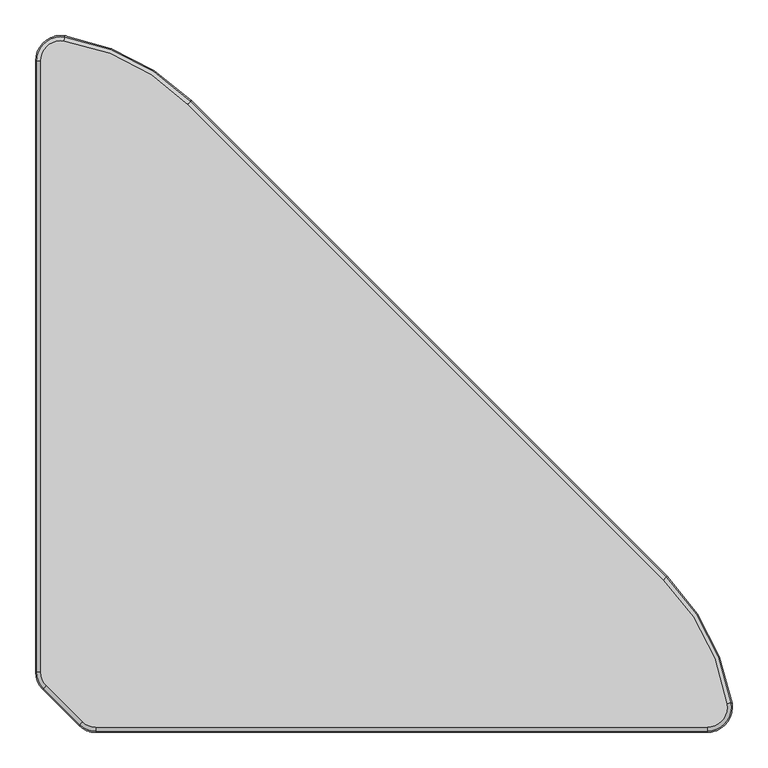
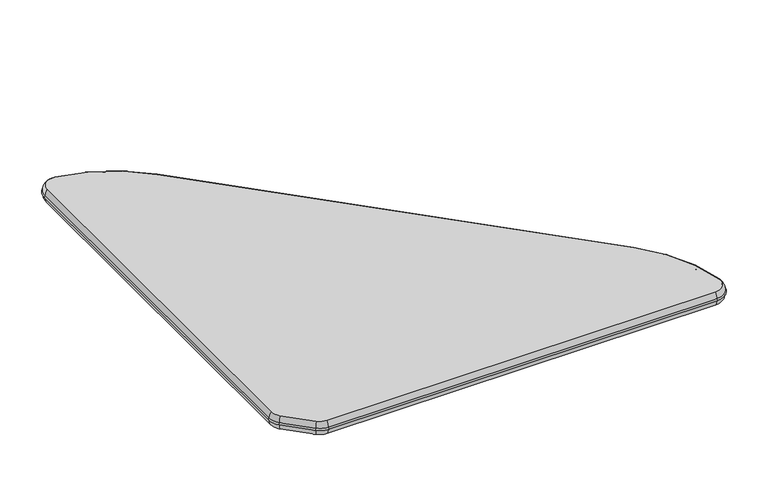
"""IFC4 building model written with IfcOpenShell, lengths in millimetres: furniture geometry, Furniture_Wilkhahn_mAx_466-10 : mAx_466-10_900L x 900W x 730H-Bullnose."""

from ifc_helpers import new_model, si_unit, point, frame, frame_2d, origin, place, context, project, spatial, polyline, circle_curve, ellipse_curve, trimmed, segment, composite_curve, outline, extrude, source, transform, mapped, element, save
from ifc_brep_helpers import plane_surface, cylinder_surface, revolved_surface, extruded_surface, advanced_brep


def furniture_74cbf775(model_context):
    return source(origin(), model_context, "Body", "SolidModel", [
        extrude(outline(composite_curve([segment(polyline([(-1335.7655271, 694.4444598), (-1320.7655271, 694.4444598), (-1320.7655271, 693.6411472)]), True, "CONTINUOUS"), segment(trimmed(circle_curve(frame_2d((-1313.2655271, 693.6411472)), 7.5), [point((-1320.7655271, 693.6411472))], [point((-1313.2655271, 686.1411472))], True, "CARTESIAN"), True, "CONTINUOUS"), segment(polyline([(-1313.2655271, 686.1411472), (-1303.5506481, 686.1411472)]), True, "CONTINUOUS"), segment(trimmed(circle_curve(frame_2d((-1303.5506481, 686.6411472)), 0.5), [point((-1303.5506481, 686.1411472))], [point((-1303.0506481, 686.6411472))], True, "CARTESIAN"), True, "CONTINUOUS"), segment(polyline([(-1303.0506481, 686.6411472), (-1303.0506481, 693.2216542), (-1288.0506481, 693.2216542), (-1288.0506481, 686.6411472)]), True, "CONTINUOUS"), segment(trimmed(circle_curve(frame_2d((-1303.5506481, 686.6411472)), 15.5), [point((-1288.0506481, 686.6411472))], [point((-1303.5506481, 671.1411472))], False, "CARTESIAN"), True, "CONTINUOUS"), segment(polyline([(-1303.5506481, 671.1411472), (-1313.2655271, 671.1411472)]), True, "CONTINUOUS"), segment(trimmed(circle_curve(frame_2d((-1313.2655271, 693.6411472)), 22.5), [point((-1313.2655271, 671.1411472))], [point((-1335.7655271, 693.6411472))], False, "CARTESIAN"), True, "CONTINUOUS"), segment(polyline([(-1335.7655271, 693.6411472), (-1335.7655271, 694.4444598)]), True, "CONTINUOUS")], self_intersect=False)), frame((0.5339247, 0.0, 0.0), z_axis=(1.0, 0.0, 0.0), x_axis=(0.0, 1.0, 0.0)), (0.0, 0.0, 1.0), 13.865484),
        extrude(outline(composite_curve([segment(trimmed(circle_curve(frame_2d((38.0596613, -1275.7655271)), 9.0), [point((38.0596613, -1266.7655271))], [point((47.0596613, -1275.7655271))], False, "CARTESIAN"), True, "CONTINUOUS"), segment(polyline([(47.0596613, -1275.7655271), (47.0596613, -1380.7655271)]), True, "CONTINUOUS"), segment(trimmed(circle_curve(frame_2d((38.0596613, -1380.7655271)), 9.0), [point((47.0596613, -1380.7655271))], [point((38.0596613, -1389.7655271))], False, "CARTESIAN"), True, "CONTINUOUS"), segment(polyline([(38.0596613, -1389.7655271), (-23.126328, -1389.7655271)]), True, "CONTINUOUS"), segment(trimmed(circle_curve(frame_2d((-23.126328, -1380.7655271)), 9.0), [point((-23.126328, -1389.7655271))], [point((-32.126328, -1380.7655271))], False, "CARTESIAN"), True, "CONTINUOUS"), segment(polyline([(-32.126328, -1380.7655271), (-32.126328, -1275.7655271)]), True, "CONTINUOUS"), segment(trimmed(circle_curve(frame_2d((-23.126328, -1275.7655271)), 9.0), [point((-32.126328, -1275.7655271))], [point((-23.126328, -1266.7655271))], False, "CARTESIAN"), True, "CONTINUOUS"), segment(polyline([(-23.126328, -1266.7655271), (38.0596613, -1266.7655271)]), True, "CONTINUOUS")], self_intersect=False)), frame((0.0, 0.0, 695.0), z_axis=(0.0, 0.0, 1.0), x_axis=(1.0, 0.0, 0.0)), (0.0, 0.0, 1.0), 5.0),
        extrude(outline(composite_curve([segment(polyline([(-1320.7655271, 694.4444598), (-1320.7655271, 693.6411472)]), True, "CONTINUOUS"), segment(trimmed(circle_curve(frame_2d((-1313.2655271, 693.6411472)), 7.5), [point((-1320.7655271, 693.6411472))], [point((-1313.2655271, 686.1411472))], True, "CARTESIAN"), True, "CONTINUOUS"), segment(polyline([(-1313.2655271, 686.1411472), (-1303.5506481, 686.1411472)]), True, "CONTINUOUS"), segment(trimmed(circle_curve(frame_2d((-1303.5506481, 686.6411472)), 0.5), [point((-1303.5506481, 686.1411472))], [point((-1303.0506481, 686.6411472))], True, "CARTESIAN"), True, "CONTINUOUS"), segment(polyline([(-1303.0506481, 686.6411472), (-1303.0506481, 693.2216542), (-1288.0506481, 693.2216542), (-1288.0506481, 686.6411472)]), True, "CONTINUOUS"), segment(trimmed(circle_curve(frame_2d((-1303.5506481, 686.6411472)), 15.5), [point((-1288.0506481, 686.6411472))], [point((-1303.5506481, 671.1411472))], False, "CARTESIAN"), True, "CONTINUOUS"), segment(polyline([(-1303.5506481, 671.1411472), (-1313.2655271, 671.1411472)]), True, "CONTINUOUS"), segment(trimmed(circle_curve(frame_2d((-1313.2655271, 693.6411472)), 22.5), [point((-1313.2655271, 671.1411472))], [point((-1335.7655271, 693.6411472))], False, "CARTESIAN"), True, "CONTINUOUS"), segment(polyline([(-1335.7655271, 693.6411472), (-1335.7655271, 694.4444598), (-1320.7655271, 694.4444598)]), True, "CONTINUOUS")], self_intersect=False)), frame((316.8005913, 0.0, 0.0), z_axis=(1.0, 0.0, 0.0), x_axis=(0.0, 1.0, 0.0)), (0.0, 0.0, 1.0), 13.865484),
        extrude(outline(composite_curve([segment(polyline([(293.1403387, -1266.7655271), (354.326328, -1266.7655271)]), True, "CONTINUOUS"), segment(trimmed(circle_curve(frame_2d((354.326328, -1275.7655271)), 9.0), [point((354.326328, -1266.7655271))], [point((363.326328, -1275.7655271))], False, "CARTESIAN"), True, "CONTINUOUS"), segment(polyline([(363.326328, -1275.7655271), (363.326328, -1380.7655271)]), True, "CONTINUOUS"), segment(trimmed(circle_curve(frame_2d((354.326328, -1380.7655271)), 9.0), [point((363.326328, -1380.7655271))], [point((354.326328, -1389.7655271))], False, "CARTESIAN"), True, "CONTINUOUS"), segment(polyline([(354.326328, -1389.7655271), (293.1403387, -1389.7655271)]), True, "CONTINUOUS"), segment(trimmed(circle_curve(frame_2d((293.1403387, -1380.7655271)), 9.0), [point((293.1403387, -1389.7655271))], [point((284.1403387, -1380.7655271))], False, "CARTESIAN"), True, "CONTINUOUS"), segment(polyline([(284.1403387, -1380.7655271), (284.1403387, -1275.7655271)]), True, "CONTINUOUS"), segment(trimmed(circle_curve(frame_2d((293.1403387, -1275.7655271)), 9.0), [point((284.1403387, -1275.7655271))], [point((293.1403387, -1266.7655271))], False, "CARTESIAN"), True, "CONTINUOUS")], self_intersect=False)), frame((0.0, 0.0, 695.0), z_axis=(0.0, 0.0, 1.0), x_axis=(1.0, 0.0, 0.0)), (0.0, 0.0, 1.0), 5.0),
        extrude(outline(composite_curve([segment(polyline([(694.4444598, -254.8), (693.6411472, -254.8)]), True, "CONTINUOUS"), segment(trimmed(circle_curve(frame_2d((693.6411472, -232.3)), 22.5), [point((693.6411472, -254.8))], [point((671.1411472, -232.3))], False, "CARTESIAN"), True, "CONTINUOUS"), segment(polyline([(671.1411472, -232.3), (671.1411472, -222.5851209)]), True, "CONTINUOUS"), segment(trimmed(circle_curve(frame_2d((686.6411472, -222.5851209)), 15.5), [point((671.1411472, -222.5851209))], [point((686.6411472, -207.0851209))], False, "CARTESIAN"), True, "CONTINUOUS"), segment(polyline([(686.6411472, -207.0851209), (693.2216542, -207.0851209), (693.2216542, -222.0851209), (686.6411472, -222.0851209)]), True, "CONTINUOUS"), segment(trimmed(circle_curve(frame_2d((686.6411472, -222.5851209)), 0.5), [point((686.6411472, -222.0851209))], [point((686.1411472, -222.5851209))], True, "CARTESIAN"), True, "CONTINUOUS"), segment(polyline([(686.1411472, -222.5851209), (686.1411472, -232.3)]), True, "CONTINUOUS"), segment(trimmed(circle_curve(frame_2d((693.6411472, -232.3)), 7.5), [point((686.1411472, -232.3))], [point((693.6411472, -239.8))], True, "CARTESIAN"), True, "CONTINUOUS"), segment(polyline([(693.6411472, -239.8), (694.4444598, -239.8), (694.4444598, -254.8)]), True, "CONTINUOUS")], self_intersect=False)), frame((0.0, -1101.2316025, 0.0), z_axis=(0.0, 1.0, 0.0), x_axis=(0.0, 0.0, 1.0)), (0.0, 0.0, 1.0), 13.865484),
        extrude(outline(composite_curve([segment(polyline([(-185.8, -1063.7058658), (-185.8, -1124.8918551)]), True, "CONTINUOUS"), segment(trimmed(circle_curve(frame_2d((-194.8, -1124.8918551)), 9.0), [point((-185.8, -1124.8918551))], [point((-194.8, -1133.8918551))], False, "CARTESIAN"), True, "CONTINUOUS"), segment(polyline([(-194.8, -1133.8918551), (-299.8, -1133.8918551)]), True, "CONTINUOUS"), segment(trimmed(circle_curve(frame_2d((-299.8, -1124.8918551)), 9.0), [point((-299.8, -1133.8918551))], [point((-308.8, -1124.8918551))], False, "CARTESIAN"), True, "CONTINUOUS"), segment(polyline([(-308.8, -1124.8918551), (-308.8, -1063.7058658)]), True, "CONTINUOUS"), segment(trimmed(circle_curve(frame_2d((-299.8, -1063.7058658)), 9.0), [point((-308.8, -1063.7058658))], [point((-299.8, -1054.7058658))], False, "CARTESIAN"), True, "CONTINUOUS"), segment(polyline([(-299.8, -1054.7058658), (-194.8, -1054.7058658)]), True, "CONTINUOUS"), segment(trimmed(circle_curve(frame_2d((-194.8, -1063.7058658)), 9.0), [point((-194.8, -1054.7058658))], [point((-185.8, -1063.7058658))], False, "CARTESIAN"), True, "CONTINUOUS")], self_intersect=False)), frame((0.0, 0.0, 695.0), z_axis=(0.0, 0.0, 1.0), x_axis=(1.0, 0.0, 0.0)), (0.0, 0.0, 1.0), 5.0),
        extrude(outline(composite_curve([segment(polyline([(694.4444598, -239.8), (694.4444598, -254.8), (693.6411472, -254.8)]), True, "CONTINUOUS"), segment(trimmed(circle_curve(frame_2d((693.6411472, -232.3)), 22.5), [point((693.6411472, -254.8))], [point((671.1411472, -232.3))], False, "CARTESIAN"), True, "CONTINUOUS"), segment(polyline([(671.1411472, -232.3), (671.1411472, -222.5851209)]), True, "CONTINUOUS"), segment(trimmed(circle_curve(frame_2d((686.6411472, -222.5851209)), 15.5), [point((671.1411472, -222.5851209))], [point((686.6411472, -207.0851209))], False, "CARTESIAN"), True, "CONTINUOUS"), segment(polyline([(686.6411472, -207.0851209), (693.2216542, -207.0851209), (693.2216542, -222.0851209), (686.6411472, -222.0851209)]), True, "CONTINUOUS"), segment(trimmed(circle_curve(frame_2d((686.6411472, -222.5851209)), 0.5), [point((686.6411472, -222.0851209))], [point((686.1411472, -222.5851209))], True, "CARTESIAN"), True, "CONTINUOUS"), segment(polyline([(686.1411472, -222.5851209), (686.1411472, -232.3)]), True, "CONTINUOUS"), segment(trimmed(circle_curve(frame_2d((693.6411472, -232.3)), 7.5), [point((686.1411472, -232.3))], [point((693.6411472, -239.8))], True, "CARTESIAN"), True, "CONTINUOUS"), segment(polyline([(693.6411472, -239.8), (694.4444598, -239.8)]), True, "CONTINUOUS")], self_intersect=False)), frame((0.0, -774.5649358, 0.0), z_axis=(0.0, 1.0, 0.0), x_axis=(0.0, 0.0, 1.0)), (0.0, 0.0, 1.0), 13.865484),
        extrude(outline(composite_curve([segment(trimmed(circle_curve(frame_2d((-194.8, -798.2251885)), 9.0), [point((-185.8, -798.2251885))], [point((-194.8, -807.2251885))], False, "CARTESIAN"), True, "CONTINUOUS"), segment(polyline([(-194.8, -807.2251885), (-299.8, -807.2251885)]), True, "CONTINUOUS"), segment(trimmed(circle_curve(frame_2d((-299.8, -798.2251885)), 9.0), [point((-299.8, -807.2251885))], [point((-308.8, -798.2251885))], False, "CARTESIAN"), True, "CONTINUOUS"), segment(polyline([(-308.8, -798.2251885), (-308.8, -737.0391992)]), True, "CONTINUOUS"), segment(trimmed(circle_curve(frame_2d((-299.8, -737.0391992)), 9.0), [point((-308.8, -737.0391992))], [point((-299.8, -728.0391992))], False, "CARTESIAN"), True, "CONTINUOUS"), segment(polyline([(-299.8, -728.0391992), (-194.8, -728.0391992)]), True, "CONTINUOUS"), segment(trimmed(circle_curve(frame_2d((-194.8, -737.0391992)), 9.0), [point((-194.8, -728.0391992))], [point((-185.8, -737.0391992))], False, "CARTESIAN"), True, "CONTINUOUS"), segment(polyline([(-185.8, -737.0391992), (-185.8, -798.2251885)]), True, "CONTINUOUS")], self_intersect=False)), frame((0.0, 0.0, 695.0), z_axis=(0.0, 0.0, 1.0), x_axis=(1.0, 0.0, 0.0)), (0.0, 0.0, 1.0), 5.0),
        advanced_brep(
        [(602.5178895, -1395.4655271, 700.0), (-255.8933983, -1395.4655271, 700.0), (-255.8933983, -1395.4655271, 705.0), (602.5178895, -1395.4655271, 705.0), (-314.5, -1336.8589254, 700.0), (-314.5, -478.4476376, 700.0), (-314.5, -478.4476376, 705.0), (-314.5, -1336.8589254, 705.0), (-312.3033009, -1342.1622263, 700.0), (-312.3033009, -1342.1622263, 705.0), (-261.1966991, -1393.268828, 700.0), (-261.1966991, -1393.268828, 705.0), (527.4390577, -1219.0718527, 700.0), (528.4414259, -1220.0742209, 700.0), (528.4414259, -1220.0742209, 705.0), (527.4390577, -1219.0718527, 705.0), (-138.1063255, -553.5264695, 705.0), (-139.1086938, -552.5241013, 705.0), (-139.1086938, -552.5241013, 700.0), (-138.1063255, -553.5264695, 700.0), (612.3871481, -1383.8537779, 700.0), (612.3871481, -1383.8537779, 705.0), (-302.8882508, -468.5783791, 700.0), (-302.8882508, -468.5783791, 705.0), (541.2526335, -1207.2630133, 730.0), (-126.2974862, -539.7128937, 730.0), (-299.9681184, -450.6974701, 730.0), (-332.6177835, -478.4476376, 730.0), (-332.6177835, -1336.8589254, 730.0), (-325.1145084, -1354.9734339, 730.0), (-274.0079067, -1406.0800356, 730.0), (-255.8933983, -1413.5833107, 730.0), (602.5178895, -1413.5833107, 730.0), (630.2680571, -1380.9336455, 730.0), (-332.6177835, -478.4476376, 700.0), (-299.9681184, -450.6974701, 700.0), (-126.2974862, -539.7128937, 700.0), (541.2526335, -1207.2630133, 700.0), (630.2680571, -1380.9336455, 700.0), (602.5178895, -1413.5833107, 700.0), (-255.8933983, -1413.5833107, 700.0), (-274.0079067, -1406.0800356, 700.0), (-325.1145084, -1354.9734339, 700.0), (-332.6177835, -1336.8589254, 700.0), (-329.223773, -1359.0826985, 712.6790822), (-338.4291612, -1336.8589254, 712.6790822), (-329.223773, -1359.0826985, 717.3209178), (-338.4291612, -1336.8589254, 717.3209178), (-278.1171713, -1410.1893002, 712.6790822), (-278.1171713, -1410.1893002, 717.3209178), (-255.8933983, -1419.3946884, 712.6790822), (-255.8933983, -1419.3946884, 717.3209178), (602.5178895, -1419.3946884, 712.6790822), (602.5178895, -1419.3946884, 717.3209178), (636.003456, -1379.9969971, 712.6790822), (636.003456, -1379.9969971, 717.3209178), (545.3618981, -1203.1537487, 712.6790822), (545.3618981, -1203.1537487, 717.3209178), (-122.1882216, -535.6036291, 712.6790822), (-122.1882216, -535.6036291, 717.3209178), (-299.03147, -444.9620711, 712.6790822), (-299.03147, -444.9620711, 717.3209178), (-338.4291612, -478.4476376, 712.6790822), (-338.4291612, -478.4476376, 717.3209178)],
        [
            (0, 1),
            (1, 2),
            (2, 3),
            (3, 0),
            (4, 5),
            (5, 6),
            (6, 7),
            (7, 4),
            (8, 4, circle_curve(frame((-307.0, -1336.8589254, 700.0), z_axis=(0.0, 0.0, -1.0), x_axis=(-1.0, 0.0, 0.0)), 7.5)),
            (7, 9, circle_curve(frame((-307.0, -1336.8589254, 705.0), z_axis=(0.0, 0.0, 1.0), x_axis=(-1.0, 0.0, 0.0)), 7.5)),
            (9, 8),
            (10, 8),
            (9, 11),
            (11, 10),
            (1, 10, circle_curve(frame((-255.8933983, -1387.9655271, 700.0), z_axis=(0.0, 0.0, -1.0), x_axis=(-0.7071067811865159, -0.7071067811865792, 0.0)), 7.5)),
            (11, 2, circle_curve(frame((-255.8933983, -1387.9655271, 705.0), z_axis=(0.0, 0.0, 1.0), x_axis=(-0.7071067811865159, -0.7071067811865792, 0.0)), 7.5)),
            (12, 13),
            (13, 14),
            (14, 15),
            (15, 16),
            (16, 17),
            (17, 18),
            (18, 19),
            (19, 12),
            (20, 0, circle_curve(frame((602.5178895, -1385.4655271, 700.0), z_axis=(0.0, 0.0, -1.0), x_axis=(0.0, -1.0, 0.0)), 10.0)),
            (3, 21, circle_curve(frame((602.5178895, -1385.4655271, 705.0), z_axis=(0.0, 0.0, 1.0), x_axis=(0.0, -1.0, 0.0)), 10.0)),
            (21, 20),
            (13, 20, circle_curve(frame((316.3093915, -1432.2062553, 700.0), z_axis=(0.0, 0.0, -1.0), x_axis=(0.9869258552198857, 0.1611749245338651, 0.0)), 300.0)),
            (21, 14, circle_curve(frame((316.3093915, -1432.2062553, 705.0), z_axis=(0.0, 0.0, 1.0), x_axis=(0.9869258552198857, 0.1611749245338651, 0.0)), 300.0)),
            (22, 18, circle_curve(frame((-351.2407281, -764.6561356, 700.0), z_axis=(0.0, 0.0, -1.0), x_axis=(0.7071067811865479, 0.7071067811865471, 0.0)), 300.0)),
            (17, 23, circle_curve(frame((-351.2407281, -764.6561356, 705.0), z_axis=(0.0, 0.0, 1.0), x_axis=(0.7071067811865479, 0.7071067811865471, 0.0)), 300.0)),
            (23, 22),
            (24, 25),
            (25, 26, circle_curve(frame((-351.2407281, -764.6561356, 730.0), z_axis=(0.0, 0.0, 1.0), x_axis=(0.7071067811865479, 0.7071067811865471, 0.0)), 318.1177835)),
            (26, 27, circle_curve(frame((-304.5, -478.4476376, 730.0), z_axis=(0.0, 0.0, 1.0), x_axis=(0.16117492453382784, 0.9869258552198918, 0.0)), 28.1177835)),
            (27, 28),
            (28, 29, circle_curve(frame((-307.0, -1336.8589254, 730.0), z_axis=(0.0, 0.0, 1.0), x_axis=(-1.0, 0.0, 0.0)), 25.6177835)),
            (29, 30),
            (30, 31, circle_curve(frame((-255.8933983, -1387.9655271, 730.0), z_axis=(0.0, 0.0, 1.0), x_axis=(-0.7071067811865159, -0.7071067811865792, 0.0)), 25.6177835)),
            (31, 32),
            (32, 33, circle_curve(frame((602.5178895, -1385.4655271, 730.0), z_axis=(0.0, 0.0, 1.0), x_axis=(0.0, -1.0, 0.0)), 28.1177835)),
            (33, 24, circle_curve(frame((316.3093915, -1432.2062553, 730.0), z_axis=(0.0, 0.0, 1.0), x_axis=(0.9869258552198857, 0.1611749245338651, 0.0)), 318.1177835)),
            (5, 22, circle_curve(frame((-304.5, -478.4476376, 700.0), z_axis=(0.0, 0.0, -1.0), x_axis=(0.16117492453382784, 0.9869258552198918, 0.0)), 10.0)),
            (23, 6, circle_curve(frame((-304.5, -478.4476376, 705.0), z_axis=(0.0, 0.0, 1.0), x_axis=(0.16117492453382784, 0.9869258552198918, 0.0)), 10.0)),
            (34, 35, circle_curve(frame((-304.5, -478.4476376, 700.0), z_axis=(0.0, 0.0, -1.0), x_axis=(0.16117492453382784, 0.9869258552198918, 0.0)), 28.1177835)),
            (35, 36, circle_curve(frame((-351.2407281, -764.6561356, 700.0), z_axis=(0.0, 0.0, -1.0), x_axis=(0.7071067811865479, 0.7071067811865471, 0.0)), 318.1177835)),
            (36, 37),
            (37, 38, circle_curve(frame((316.3093915, -1432.2062553, 700.0), z_axis=(0.0, 0.0, -1.0), x_axis=(0.9869258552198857, 0.1611749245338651, 0.0)), 318.1177835)),
            (38, 39, circle_curve(frame((602.5178895, -1385.4655271, 700.0), z_axis=(0.0, 0.0, -1.0), x_axis=(0.0, -1.0, 0.0)), 28.1177835)),
            (39, 40),
            (40, 41, circle_curve(frame((-255.8933983, -1387.9655271, 700.0), z_axis=(0.0, 0.0, -1.0), x_axis=(-0.7071067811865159, -0.7071067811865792, 0.0)), 25.6177835)),
            (41, 42),
            (42, 43, circle_curve(frame((-307.0, -1336.8589254, 700.0), z_axis=(0.0, 0.0, -1.0), x_axis=(-1.0, 0.0, 0.0)), 25.6177835)),
            (43, 34),
            (42, 44, ellipse_curve(frame((-325.1145084, -1354.9734339, 715.0), z_axis=(-0.7071067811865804, 0.7071067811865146, 0.0), x_axis=(0.0, 0.0, -1.0)), 15.0, 5.8822165)),
            (44, 45, circle_curve(frame((-307.0, -1336.8589254, 712.6790822), z_axis=(0.0, 0.0, -1.0), x_axis=(-1.0, 0.0, 0.0)), 31.4291612)),
            (45, 43, ellipse_curve(frame((-332.6177835, -1336.8589254, 715.0), z_axis=(0.0, -1.0, 0.0), x_axis=(0.0, 0.0, -1.0)), 15.0, 5.8822165)),
            (44, 46, circle_curve(frame((-328.5667568, -1358.4256823, 715.0), z_axis=(-0.7071067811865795, 0.7071067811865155, 0.0), x_axis=(0.7071067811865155, 0.7071067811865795, 0.0)), 2.5)),
            (46, 47, circle_curve(frame((-307.0, -1336.8589254, 717.3209178), z_axis=(0.0, 0.0, -1.0), x_axis=(-1.0, 0.0, 0.0)), 31.4291612)),
            (47, 45, circle_curve(frame((-337.5, -1336.8589254, 715.0), z_axis=(0.0, -1.0, 0.0), x_axis=(1.0, 0.0, 0.0)), 2.5)),
            (28, 47, ellipse_curve(frame((-332.6177835, -1336.8589254, 715.0), z_axis=(0.0, -1.0, 0.0), x_axis=(0.0, 0.0, -1.0)), 15.0, 5.8822165)),
            (46, 29, ellipse_curve(frame((-325.1145084, -1354.9734339, 715.0), z_axis=(-0.7071067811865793, 0.7071067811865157, 0.0), x_axis=(0.0, 0.0, -1.0)), 15.0, 5.8822165)),
            (41, 48, ellipse_curve(frame((-274.0079067, -1406.0800356, 715.0), z_axis=(-0.7071067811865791, 0.707106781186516, 0.0), x_axis=(0.0, 0.0, -1.0)), 15.0, 5.8822165)),
            (48, 44),
            (48, 49, circle_curve(frame((-277.4601551, -1409.532284, 715.0), z_axis=(-0.7071067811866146, 0.7071067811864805, 0.0), x_axis=(0.7071067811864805, 0.7071067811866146, 0.0)), 2.5)),
            (49, 46),
            (49, 30, ellipse_curve(frame((-274.0079067, -1406.0800356, 715.0), z_axis=(-0.7071067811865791, 0.707106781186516, 0.0), x_axis=(0.0, 0.0, -1.0)), 15.0, 5.8822165)),
            (40, 50, ellipse_curve(frame((-255.8933983, -1413.5833107, 715.0), z_axis=(-1.0, 0.0, 0.0), x_axis=(0.0, 0.0, -1.0)), 15.0, 5.8822165)),
            (50, 48, circle_curve(frame((-255.8933983, -1387.9655271, 712.6790822), z_axis=(0.0, 0.0, -1.0), x_axis=(-0.7071067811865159, -0.7071067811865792, 0.0)), 31.4291612)),
            (50, 51, circle_curve(frame((-255.8933983, -1418.4655271, 715.0), z_axis=(-1.0, 0.0, 0.0), x_axis=(0.0, 1.0, 0.0)), 2.5)),
            (51, 49, circle_curve(frame((-255.8933983, -1387.9655271, 717.3209178), z_axis=(0.0, 0.0, -1.0), x_axis=(-0.7071067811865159, -0.7071067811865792, 0.0)), 31.4291612)),
            (51, 31, ellipse_curve(frame((-255.8933983, -1413.5833107, 715.0), z_axis=(-1.0, 0.0, 0.0), x_axis=(0.0, 0.0, -1.0)), 15.0, 5.8822165)),
            (39, 52, ellipse_curve(frame((602.5178895, -1413.5833107, 715.0), z_axis=(-1.0, 0.0, 0.0), x_axis=(0.0, 0.0, -1.0)), 15.0, 5.8822165)),
            (52, 50),
            (52, 53, circle_curve(frame((602.5178895, -1418.4655271, 715.0), z_axis=(-1.0, 0.0, 0.0), x_axis=(0.0, 1.0, 0.0)), 2.5)),
            (53, 51),
            (53, 32, ellipse_curve(frame((602.5178895, -1413.5833107, 715.0), z_axis=(-1.0, 0.0, 0.0), x_axis=(0.0, 0.0, -1.0)), 15.0, 5.8822165)),
            (38, 54, ellipse_curve(frame((630.2680571, -1380.9336455, 715.0), z_axis=(0.16117492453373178, -0.9869258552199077, 0.0), x_axis=(0.0, 0.0, -1.0)), 15.0, 5.8822165)),
            (54, 52, circle_curve(frame((602.5178895, -1385.4655271, 712.6790822), z_axis=(0.0, 0.0, -1.0), x_axis=(0.0, -1.0, 0.0)), 33.9291612)),
            (54, 55, circle_curve(frame((635.0864428, -1380.1467546, 715.0), z_axis=(0.16117492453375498, -0.9869258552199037, 0.0), x_axis=(-0.9869258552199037, -0.16117492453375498, 0.0)), 2.5)),
            (55, 53, circle_curve(frame((602.5178895, -1385.4655271, 717.3209178), z_axis=(0.0, 0.0, -1.0), x_axis=(0.0, -1.0, 0.0)), 33.9291612)),
            (55, 33, ellipse_curve(frame((630.2680571, -1380.9336455, 715.0), z_axis=(0.16117492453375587, -0.9869258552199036, 0.0), x_axis=(0.0, 0.0, -1.0)), 15.0, 5.8822165)),
            (37, 56, ellipse_curve(frame((541.2526335, -1207.2630133, 715.0), z_axis=(0.7071067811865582, -0.7071067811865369, 0.0), x_axis=(0.0, 0.0, -1.0)), 15.0, 5.8822165)),
            (56, 54, circle_curve(frame((316.3093915, -1432.2062553, 712.6790822), z_axis=(0.0, 0.0, -1.0), x_axis=(0.9869258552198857, 0.1611749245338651, 0.0)), 323.9291612)),
            (56, 57, circle_curve(frame((544.7048819, -1203.8107649, 715.0), z_axis=(0.7071067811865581, -0.707106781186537, 0.0), x_axis=(-0.707106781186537, -0.7071067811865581, 0.0)), 2.5)),
            (57, 55, circle_curve(frame((316.3093915, -1432.2062553, 717.3209178), z_axis=(0.0, 0.0, -1.0), x_axis=(0.9869258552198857, 0.1611749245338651, 0.0)), 323.9291612)),
            (57, 24, ellipse_curve(frame((541.2526335, -1207.2630133, 715.0), z_axis=(0.707106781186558, -0.707106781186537, 0.0), x_axis=(0.0, 0.0, -1.0)), 15.0, 5.8822165)),
            (36, 58, ellipse_curve(frame((-126.2974862, -539.7128937, 715.0), z_axis=(0.707106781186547, -0.707106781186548, 0.0), x_axis=(0.0, 0.0, -1.0)), 15.0, 5.8822165)),
            (58, 56),
            (58, 59, circle_curve(frame((-122.8452378, -536.2606453, 715.0), z_axis=(0.7071067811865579, -0.7071067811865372, 0.0), x_axis=(-0.7071067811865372, -0.7071067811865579, 0.0)), 2.5)),
            (59, 57),
            (59, 25, ellipse_curve(frame((-126.2974862, -539.7128937, 715.0), z_axis=(0.707106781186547, -0.707106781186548, 0.0), x_axis=(0.0, 0.0, -1.0)), 15.0, 5.8822165)),
            (35, 60, ellipse_curve(frame((-299.9681184, -450.6974701, 715.0), z_axis=(0.9869258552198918, -0.16117492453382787, 0.0), x_axis=(0.0, 0.0, -1.0)), 15.0, 5.8822165)),
            (60, 58, circle_curve(frame((-351.2407281, -764.6561356, 712.6790822), z_axis=(0.0, 0.0, -1.0), x_axis=(0.7071067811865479, 0.7071067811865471, 0.0)), 323.9291612)),
            (60, 61, circle_curve(frame((-299.1812275, -445.8790844, 715.0), z_axis=(0.9869258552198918, -0.16117492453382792, 0.0), x_axis=(-0.16117492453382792, -0.9869258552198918, 0.0)), 2.5)),
            (61, 59, circle_curve(frame((-351.2407281, -764.6561356, 717.3209178), z_axis=(0.0, 0.0, -1.0), x_axis=(0.7071067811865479, 0.7071067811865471, 0.0)), 323.9291612)),
            (61, 26, ellipse_curve(frame((-299.9681184, -450.6974701, 715.0), z_axis=(0.9869258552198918, -0.16117492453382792, 0.0), x_axis=(0.0, 0.0, -1.0)), 15.0, 5.8822165)),
            (34, 62, ellipse_curve(frame((-332.6177835, -478.4476376, 715.0), z_axis=(0.0, 1.0, 0.0), x_axis=(0.0, 0.0, -1.0)), 15.0, 5.8822165)),
            (62, 60, circle_curve(frame((-304.5, -478.4476376, 712.6790822), z_axis=(0.0, 0.0, -1.0), x_axis=(0.16117492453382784, 0.9869258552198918, 0.0)), 33.9291612)),
            (62, 63, circle_curve(frame((-337.5, -478.4476376, 715.0), z_axis=(0.0, 1.0, 0.0), x_axis=(1.0, 0.0, 0.0)), 2.5)),
            (63, 61, circle_curve(frame((-304.5, -478.4476376, 717.3209178), z_axis=(0.0, 0.0, -1.0), x_axis=(0.16117492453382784, 0.9869258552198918, 0.0)), 33.9291612)),
            (63, 27, ellipse_curve(frame((-332.6177835, -478.4476376, 715.0), z_axis=(0.0, 1.0, 0.0), x_axis=(0.0, 0.0, -1.0)), 15.0, 5.8822165)),
            (45, 62),
            (47, 63),
        ],
        [
            plane_surface(frame((-255.8933983, -1395.4655271, 730.0), z_axis=(0.0, 1.0, 0.0), x_axis=(1.0, 0.0, 0.0))),
            plane_surface(frame((-314.5, -478.4476376, 730.0), z_axis=(1.0, 0.0, 0.0), x_axis=(0.0, -1.0, 0.0))),
            revolved_surface(polyline([(-314.5, -1336.8589254, 705.0), (-314.5, -1336.8589254, 700.0)]), (-307.0, -1336.8589254, 730.0), (0.0, 0.0, 1.0)),
            plane_surface(frame((-312.3033009, -1342.1622263, 730.0), z_axis=(0.7071067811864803, 0.7071067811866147, 0.0), x_axis=(0.7071067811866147, -0.7071067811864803, 0.0))),
            revolved_surface(polyline([(-261.19669915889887, -1393.2688279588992, 705.0), (-261.19669915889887, -1393.2688279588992, 700.0)]), (-255.8933983, -1387.9655271, 730.0), (0.0, 0.0, 1.0)),
            plane_surface(frame((528.4414259, -1220.0742209, 730.0), z_axis=(-0.7071067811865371, -0.7071067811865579, 0.0), x_axis=(-0.7071067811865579, 0.7071067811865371, 0.0))),
            revolved_surface(polyline([(602.5178895, -1395.4655271, 705.0), (602.5178895, -1395.4655271, 700.0)]), (602.5178895, -1385.4655271, 730.0), (0.0, 0.0, 1.0)),
            revolved_surface(polyline([(612.3871480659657, -1383.8537779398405, 705.0), (612.3871480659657, -1383.8537779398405, 700.0)]), (316.3093915, -1432.2062553, 730.0), (0.0, 0.0, 1.0)),
            revolved_surface(polyline([(-139.10869374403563, -552.5241012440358, 705.0), (-139.10869374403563, -552.5241012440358, 700.0)]), (-351.2407281, -764.6561356, 730.0), (0.0, 0.0, 1.0)),
            plane_surface(frame((-304.5, -478.4476376, 730.0), z_axis=(0.0, 0.0, 1.0), x_axis=(0.16117492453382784, 0.9869258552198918, 0.0))),
            revolved_surface(polyline([(-302.8882507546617, -468.5783790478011, 705.0), (-302.8882507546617, -468.5783790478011, 700.0)]), (-304.5, -478.4476376, 730.0), (0.0, 0.0, 1.0)),
            plane_surface(frame((-304.5, -478.4476376, 700.0), z_axis=(0.0, 0.0, -1.0), x_axis=(0.16117492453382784, 0.9869258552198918, 0.0))),
            plane_surface(frame((-351.2407281, -464.6561356, 705.0), z_axis=(0.0, 0.0, -1.0), x_axis=(1.0, 0.0, 0.0))),
            revolved_surface(trimmed(ellipse_curve(frame((-332.6177835, -1336.8589254, 715.0), z_axis=(0.0, 1.0, 0.0), x_axis=(1.0, 0.0, 0.0)), 5.8822165, 15.0), [point((-332.6177835, -1336.8589254, 700.0))], [point((-338.4291612, -1336.8589254, 712.6790822))], True, "CARTESIAN"), (-307.0, -1336.8589254, 730.0), (0.0, 0.0, 1.0)),
            revolved_surface(trimmed(ellipse_curve(frame((-337.5, -1336.8589254, 715.0), z_axis=(0.0, 1.0, 0.0), x_axis=(1.0, 0.0, 0.0)), 2.5, 2.5), [point((-338.4291612, -1336.8589254, 712.6790822))], [point((-338.4291612, -1336.8589254, 717.3209178))], True, "CARTESIAN"), (-307.0, -1336.8589254, 730.0), (0.0, 0.0, 1.0)),
            revolved_surface(trimmed(ellipse_curve(frame((-332.6177835, -1336.8589254, 715.0), z_axis=(0.0, 1.0, 0.0), x_axis=(1.0, 0.0, 0.0)), 5.8822165, 15.0), [point((-338.4291612, -1336.8589254, 717.3209178))], [point((-332.6177835, -1336.8589254, 730.0))], True, "CARTESIAN"), (-307.0, -1336.8589254, 730.0), (0.0, 0.0, 1.0)),
            extruded_surface(trimmed(ellipse_curve(frame((-274.0079067, -1406.0800356, 715.0), z_axis=(-0.7071067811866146, 0.7071067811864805, 0.0), x_axis=(0.7071067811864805, 0.7071067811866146, 0.0)), 5.8822165, 15.0), [point((-274.0079067, -1406.0800356, 700.0))], [point((-278.1171713, -1410.1893002, 712.6790822))], True, "CARTESIAN"), (-51.1066017, 51.106601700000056, 0.0), 72.2756492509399),
            cylinder_surface(frame((-328.5667568, -1358.4256823, 715.0), z_axis=(-0.7071067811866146, 0.7071067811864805, 0.0), x_axis=(0.7071067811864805, 0.7071067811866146, 0.0)), 2.5),
            extruded_surface(trimmed(ellipse_curve(frame((-274.0079067, -1406.0800356, 715.0), z_axis=(-0.7071067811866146, 0.7071067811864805, 0.0), x_axis=(0.7071067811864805, 0.7071067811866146, 0.0)), 5.8822165, 15.0), [point((-278.1171713, -1410.1893002, 717.3209178))], [point((-274.0079067, -1406.0800356, 730.0))], True, "CARTESIAN"), (-51.1066017, 51.106601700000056, 0.0), 72.2756492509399),
            revolved_surface(trimmed(ellipse_curve(frame((-274.0079067, -1406.0800356, 715.0), z_axis=(-0.7071067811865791, 0.707106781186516, 0.0), x_axis=(0.707106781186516, 0.7071067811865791, 0.0)), 5.8822165, 15.0), [point((-274.0079067, -1406.0800356, 700.0))], [point((-278.1171713, -1410.1893002, 712.6790822))], True, "CARTESIAN"), (-255.8933983, -1387.9655271, 730.0), (0.0, 0.0, 1.0)),
            revolved_surface(trimmed(ellipse_curve(frame((-277.4601551, -1409.532284, 715.0), z_axis=(-0.7071067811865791, 0.707106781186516, 0.0), x_axis=(0.707106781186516, 0.7071067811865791, 0.0)), 2.5, 2.5), [point((-278.1171713, -1410.1893002, 712.6790822))], [point((-278.1171713, -1410.1893002, 717.3209178))], True, "CARTESIAN"), (-255.8933983, -1387.9655271, 730.0), (0.0, 0.0, 1.0)),
            revolved_surface(trimmed(ellipse_curve(frame((-274.0079067, -1406.0800356, 715.0), z_axis=(-0.7071067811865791, 0.707106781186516, 0.0), x_axis=(0.707106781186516, 0.7071067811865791, 0.0)), 5.8822165, 15.0), [point((-278.1171713, -1410.1893002, 717.3209178))], [point((-274.0079067, -1406.0800356, 730.0))], True, "CARTESIAN"), (-255.8933983, -1387.9655271, 730.0), (0.0, 0.0, 1.0)),
            extruded_surface(trimmed(ellipse_curve(frame((602.5178895, -1413.5833107, 715.0), z_axis=(-1.0, 0.0, 0.0), x_axis=(0.0, 1.0, 0.0)), 5.8822165, 15.0), [point((602.5178895, -1413.5833107, 700.0))], [point((602.5178895, -1419.3946884, 712.6790822))], True, "CARTESIAN"), (-858.4112878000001, 0.0, 0.0), 858.4112878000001),
            cylinder_surface(frame((-255.8933983, -1418.4655271, 715.0), z_axis=(-1.0, 0.0, 0.0), x_axis=(0.0, 1.0, 0.0)), 2.5),
            extruded_surface(trimmed(ellipse_curve(frame((602.5178895, -1413.5833107, 715.0), z_axis=(-1.0, 0.0, 0.0), x_axis=(0.0, 1.0, 0.0)), 5.8822165, 15.0), [point((602.5178895, -1419.3946884, 717.3209178))], [point((602.5178895, -1413.5833107, 730.0))], True, "CARTESIAN"), (-858.4112878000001, 0.0, 0.0), 858.4112878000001),
            revolved_surface(trimmed(ellipse_curve(frame((602.5178895, -1413.5833107, 715.0), z_axis=(-1.0, 0.0, 0.0), x_axis=(0.0, 1.0, 0.0)), 5.8822165, 15.0), [point((602.5178895, -1413.5833107, 700.0))], [point((602.5178895, -1419.3946884, 712.6790822))], True, "CARTESIAN"), (602.5178895, -1385.4655271, 730.0), (0.0, 0.0, 1.0)),
            revolved_surface(trimmed(ellipse_curve(frame((602.5178895, -1418.4655271, 715.0), z_axis=(-1.0, 0.0, 0.0), x_axis=(0.0, 1.0, 0.0)), 2.5, 2.5), [point((602.5178895, -1419.3946884, 712.6790822))], [point((602.5178895, -1419.3946884, 717.3209178))], True, "CARTESIAN"), (602.5178895, -1385.4655271, 730.0), (0.0, 0.0, 1.0)),
            revolved_surface(trimmed(ellipse_curve(frame((602.5178895, -1413.5833107, 715.0), z_axis=(-1.0, 0.0, 0.0), x_axis=(0.0, 1.0, 0.0)), 5.8822165, 15.0), [point((602.5178895, -1419.3946884, 717.3209178))], [point((602.5178895, -1413.5833107, 730.0))], True, "CARTESIAN"), (602.5178895, -1385.4655271, 730.0), (0.0, 0.0, 1.0)),
            revolved_surface(trimmed(ellipse_curve(frame((630.2680571, -1380.9336455, 715.0), z_axis=(0.16117492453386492, -0.9869258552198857, 0.0), x_axis=(-0.9869258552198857, -0.16117492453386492, 0.0)), 5.8822165, 15.0), [point((630.2680571, -1380.9336455, 700.0))], [point((636.003456, -1379.9969971, 712.6790822))], True, "CARTESIAN"), (316.3093915, -1432.2062553, 730.0), (0.0, 0.0, 1.0)),
            revolved_surface(trimmed(ellipse_curve(frame((635.0864428, -1380.1467546, 715.0), z_axis=(0.16117492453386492, -0.9869258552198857, 0.0), x_axis=(-0.9869258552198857, -0.16117492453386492, 0.0)), 2.5, 2.5), [point((636.003456, -1379.9969971, 712.6790822))], [point((636.003456, -1379.9969971, 717.3209178))], True, "CARTESIAN"), (316.3093915, -1432.2062553, 730.0), (0.0, 0.0, 1.0)),
            revolved_surface(trimmed(ellipse_curve(frame((630.2680571, -1380.9336455, 715.0), z_axis=(0.16117492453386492, -0.9869258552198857, 0.0), x_axis=(-0.9869258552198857, -0.16117492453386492, 0.0)), 5.8822165, 15.0), [point((636.003456, -1379.9969971, 717.3209178))], [point((630.2680571, -1380.9336455, 730.0))], True, "CARTESIAN"), (316.3093915, -1432.2062553, 730.0), (0.0, 0.0, 1.0)),
            extruded_surface(trimmed(ellipse_curve(frame((-126.2974862, -539.7128937, 715.0), z_axis=(0.7071067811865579, -0.7071067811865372, 0.0), x_axis=(-0.7071067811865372, -0.7071067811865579, 0.0)), 5.8822165, 15.0), [point((-126.2974862, -539.7128937, 700.0))], [point((-122.1882216, -535.6036291, 712.6790822))], True, "CARTESIAN"), (667.5501197, -667.5501196, 0.0), 944.0584327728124),
            cylinder_surface(frame((544.7048819, -1203.8107649, 715.0), z_axis=(0.7071067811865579, -0.7071067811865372, 0.0), x_axis=(-0.7071067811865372, -0.7071067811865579, 0.0)), 2.5),
            extruded_surface(trimmed(ellipse_curve(frame((-126.2974862, -539.7128937, 715.0), z_axis=(0.7071067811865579, -0.7071067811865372, 0.0), x_axis=(-0.7071067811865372, -0.7071067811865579, 0.0)), 5.8822165, 15.0), [point((-122.1882216, -535.6036291, 717.3209178))], [point((-126.2974862, -539.7128937, 730.0))], True, "CARTESIAN"), (667.5501197, -667.5501196, 0.0), 944.0584327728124),
            revolved_surface(trimmed(ellipse_curve(frame((-126.2974862, -539.7128937, 715.0), z_axis=(0.707106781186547, -0.707106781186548, 0.0), x_axis=(-0.707106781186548, -0.707106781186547, 0.0)), 5.8822165, 15.0), [point((-126.2974862, -539.7128937, 700.0))], [point((-122.1882216, -535.6036291, 712.6790822))], True, "CARTESIAN"), (-351.2407281, -764.6561356, 730.0), (0.0, 0.0, 1.0)),
            revolved_surface(trimmed(ellipse_curve(frame((-122.8452378, -536.2606453, 715.0), z_axis=(0.707106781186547, -0.707106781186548, 0.0), x_axis=(-0.707106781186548, -0.707106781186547, 0.0)), 2.5, 2.5), [point((-122.1882216, -535.6036291, 712.6790822))], [point((-122.1882216, -535.6036291, 717.3209178))], True, "CARTESIAN"), (-351.2407281, -764.6561356, 730.0), (0.0, 0.0, 1.0)),
            revolved_surface(trimmed(ellipse_curve(frame((-126.2974862, -539.7128937, 715.0), z_axis=(0.707106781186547, -0.707106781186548, 0.0), x_axis=(-0.707106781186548, -0.707106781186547, 0.0)), 5.8822165, 15.0), [point((-122.1882216, -535.6036291, 717.3209178))], [point((-126.2974862, -539.7128937, 730.0))], True, "CARTESIAN"), (-351.2407281, -764.6561356, 730.0), (0.0, 0.0, 1.0)),
            revolved_surface(trimmed(ellipse_curve(frame((-299.9681184, -450.6974701, 715.0), z_axis=(0.9869258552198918, -0.16117492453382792, 0.0), x_axis=(-0.16117492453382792, -0.9869258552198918, 0.0)), 5.8822165, 15.0), [point((-299.9681184, -450.6974701, 700.0))], [point((-299.03147, -444.9620711, 712.6790822))], True, "CARTESIAN"), (-304.5, -478.4476376, 730.0), (0.0, 0.0, 1.0)),
            revolved_surface(trimmed(ellipse_curve(frame((-299.1812275, -445.8790844, 715.0), z_axis=(0.9869258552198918, -0.16117492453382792, 0.0), x_axis=(-0.16117492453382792, -0.9869258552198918, 0.0)), 2.5, 2.5), [point((-299.03147, -444.9620711, 712.6790822))], [point((-299.03147, -444.9620711, 717.3209178))], True, "CARTESIAN"), (-304.5, -478.4476376, 730.0), (0.0, 0.0, 1.0)),
            revolved_surface(trimmed(ellipse_curve(frame((-299.9681184, -450.6974701, 715.0), z_axis=(0.9869258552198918, -0.16117492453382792, 0.0), x_axis=(-0.16117492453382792, -0.9869258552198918, 0.0)), 5.8822165, 15.0), [point((-299.03147, -444.9620711, 717.3209178))], [point((-299.9681184, -450.6974701, 730.0))], True, "CARTESIAN"), (-304.5, -478.4476376, 730.0), (0.0, 0.0, 1.0)),
            extruded_surface(trimmed(ellipse_curve(frame((-332.6177835, -1336.8589254, 715.0), z_axis=(0.0, 1.0, 0.0), x_axis=(1.0, 0.0, 0.0)), 5.8822165, 15.0), [point((-332.6177835, -1336.8589254, 700.0))], [point((-338.4291612, -1336.8589254, 712.6790822))], True, "CARTESIAN"), (0.0, 858.4112878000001, 0.0), 858.4112878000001),
            cylinder_surface(frame((-337.5, -478.4476376, 715.0), z_axis=(0.0, 1.0, 0.0), x_axis=(1.0, 0.0, 0.0)), 2.5),
            extruded_surface(trimmed(ellipse_curve(frame((-332.6177835, -1336.8589254, 715.0), z_axis=(0.0, 1.0, 0.0), x_axis=(1.0, 0.0, 0.0)), 5.8822165, 15.0), [point((-338.4291612, -1336.8589254, 717.3209178))], [point((-332.6177835, -1336.8589254, 730.0))], True, "CARTESIAN"), (0.0, 858.4112878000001, 0.0), 858.4112878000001),
        ],
        [
            (0, [[1, 2, 3, 4]]),
            (1, [[5, 6, 7, 8]]),
            (2, [[9, -8, 10, 11]]),
            (3, [[12, -11, 13, 14]]),
            (4, [[15, -14, 16, -2]]),
            (5, [[17, 18, 19, 20, 21, 22, 23, 24]]),
            (6, [[25, -4, 26, 27]]),
            (7, [[28, -27, 29, -18]]),
            (8, [[30, -22, 31, 32]]),
            (9, [[33, 34, 35, 36, 37, 38, 39, 40, 41, 42]]),
            (10, [[43, -32, 44, -6]]),
            (11, [[45, 46, 47, 48, 49, 50, 51, 52, 53, 54], [-1, -25, -28, -17, -24, -23, -30, -43, -5, -9, -12, -15]]),
            (12, [[-3, -16, -13, -10, -7, -44, -31, -21, -20, -19, -29, -26]]),
            (13, [[-53, 55, 56, 57]]),
            (14, [[-56, 58, 59, 60]]),
            (15, [[-37, 61, -59, 62]]),
            (16, [[-52, 63, 64, -55]]),
            (17, [[-58, -64, 65, 66]]),
            (18, [[-38, -62, -66, 67]]),
            (19, [[-51, 68, 69, -63]]),
            (20, [[-65, -69, 70, 71]]),
            (21, [[-39, -67, -71, 72]]),
            (22, [[-50, 73, 74, -68]]),
            (23, [[-70, -74, 75, 76]]),
            (24, [[-40, -72, -76, 77]]),
            (25, [[-49, 78, 79, -73]]),
            (26, [[-75, -79, 80, 81]]),
            (27, [[-41, -77, -81, 82]]),
            (28, [[-48, 83, 84, -78]]),
            (29, [[-80, -84, 85, 86]]),
            (30, [[-42, -82, -86, 87]]),
            (31, [[-47, 88, 89, -83]]),
            (32, [[-85, -89, 90, 91]]),
            (33, [[-33, -87, -91, 92]]),
            (34, [[-46, 93, 94, -88]]),
            (35, [[-90, -94, 95, 96]]),
            (36, [[-34, -92, -96, 97]]),
            (37, [[-45, 98, 99, -93]]),
            (38, [[-95, -99, 100, 101]]),
            (39, [[-35, -97, -101, 102]]),
            (40, [[-54, -57, 103, -98]]),
            (41, [[-60, 104, -100, -103]]),
            (42, [[-36, -102, -104, -61]]),
        ],
    ),
    ])


if __name__ == "__main__":
    model = new_model("IFC4")
    model_context = context("Model", 3, world=origin())
    ifc_project = project(units=[si_unit("LENGTHUNIT", "METRE", prefix="MILLI")], contexts=[model_context])
    site = spatial("IfcSite", under=ifc_project)
    building = spatial("IfcBuilding", under=site)
    placement = place(None, origin())
    furniture_shape = furniture_74cbf775(model_context)
    element("IfcFurniture", 1, ObjectType="Furniture_Wilkhahn_mAx_466-10 : mAx_466-10_900L x 900W x 730H-Bullnose", at=placement, inside=building, context=model_context, shape_type="MappedRepresentation", body=[
        mapped(furniture_shape, transform((0.0, 0.0, 0.0), x_axis=(1.0, 0.0, 0.0), y_axis=(0.0, 1.0, 0.0), z_axis=(0.0, 0.0, 1.0))),
    ])
    save(model, "model.ifc")
